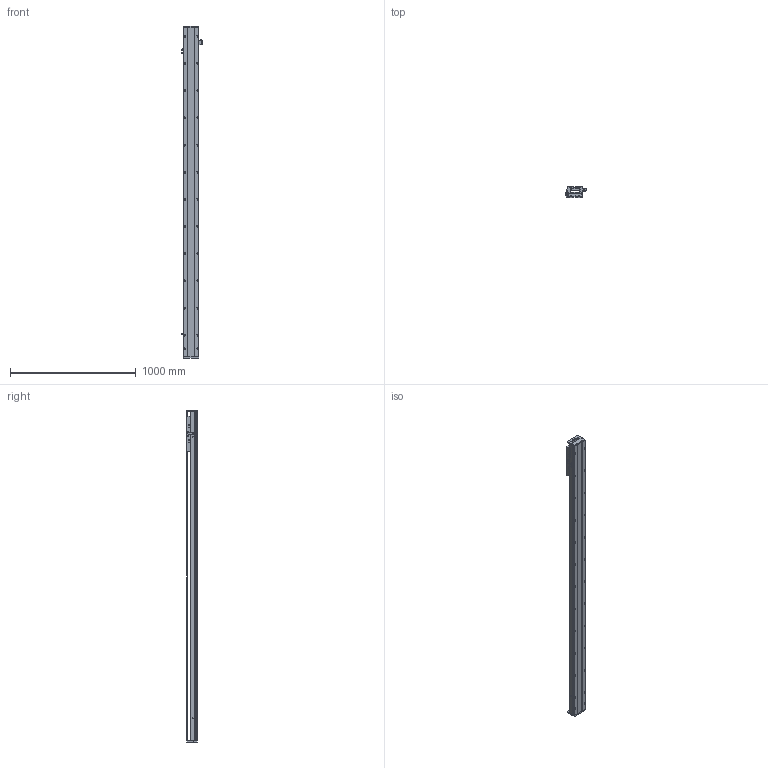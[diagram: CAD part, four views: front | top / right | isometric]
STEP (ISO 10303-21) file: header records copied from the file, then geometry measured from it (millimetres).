
FILE_DESCRIPTION (( 'STEP AP203' ), '1' );
FILE_NAME ('SKR12S-C2-S2260（简）.STEP', '2022-09-26T05:38:50', ( '' ), ( '' ), 'SwSTEP 2.0', 'SolidWorks 2018', '' );
FILE_SCHEMA (( 'CONFIG_CONTROL_DESIGN' ));
Length unit declared in the file: millimetre
Products named in the file (8): SIKO棠掑; EE-SX672; SKR12菁釱-C2-S2260(潠); 棠掑假蚾輸; SKR12S-C2-S2260（简）; SKR12耜啣; SKR12滑台-280L（简）; 覜茼え
Assembly tree (10 placements, depth 2):
  SKR12S-C2-S2260（简）
    SKR12菁釱-C2-S2260(潠)
    SKR12滑台-280L（简）
    SKR12耜啣  x2
    棠掑假蚾輸
    SIKO棠掑
    EE-SX672  x3
    覜茼え
Bounding box: 162.7 x 87.3 x 2640 mm (x, y, z)
Volume: 11532711.1 mm3; surface area: 1796570.6 mm2
Topology: 11 solids, 11 shells, 1166 faces, 3133 edges, 1975 vertices
Faces by surface type: cylinder 576, plane 428, cone 162
Entity records: 33311 total; most frequent: CARTESIAN_POINT 7391, DIRECTION 5337, ORIENTED_EDGE 5174, EDGE_CURVE 2587, AXIS2_PLACEMENT_3D 2001, VERTEX_POINT 1679, VECTOR 1335, LINE 1335
